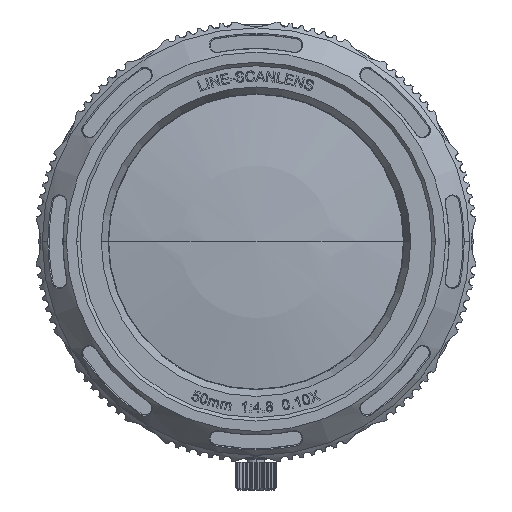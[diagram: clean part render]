
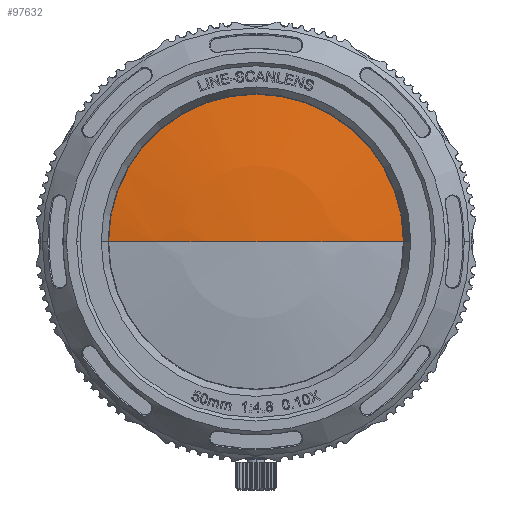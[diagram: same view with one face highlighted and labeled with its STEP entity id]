
A CAD part, left-side view. The second image highlights one B-rep face of the part: STEP entity #97632.
In plain terms, the highlighted spherical face has radius 124.25 mm.
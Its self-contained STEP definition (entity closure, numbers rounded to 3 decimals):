
#42138=CARTESIAN_POINT('',(-37.942,0.,0.));
#42139=DIRECTION('',(1.,0.,0.));
#42140=DIRECTION('',(0.,1.,0.));
#42141=AXIS2_PLACEMENT_3D('',#42138,#42139,#42140);
#42143=CARTESIAN_POINT('',(84.345,0.,0.));
#42144=DIRECTION('',(0.,0.,-1.));
#42145=DIRECTION('',(-0.984,-0.177,0.));
#42146=AXIS2_PLACEMENT_3D('',#42143,#42144,#42145);
#42148=CARTESIAN_POINT('',(84.345,0.,0.));
#42149=DIRECTION('',(0.,0.,1.));
#42150=DIRECTION('',(-0.984,0.177,0.));
#42151=AXIS2_PLACEMENT_3D('',#42148,#42149,#42150);
#51231=CARTESIAN_POINT('',(-37.942,22.,0.));
#51232=VERTEX_POINT('',#51231);
#51233=CARTESIAN_POINT('',(-37.942,-22.,0.));
#51234=VERTEX_POINT('',#51233);
#51235=CARTESIAN_POINT('',(-39.905,0.,0.));
#51236=VERTEX_POINT('',#51235);
#97620=CARTESIAN_POINT('',(84.345,0.,0.));
#97621=DIRECTION('',(1.,0.,0.));
#97622=DIRECTION('',(0.,-1.,0.));
#97623=AXIS2_PLACEMENT_3D('',#97620,#97621,#97622);
#97624=SPHERICAL_SURFACE('',#97623,124.25);
#97626=ORIENTED_EDGE('',*,*,#97625,.F.);
#97627=ORIENTED_EDGE('',*,*,#97614,.T.);
#97629=ORIENTED_EDGE('',*,*,#97628,.T.);
#97630=EDGE_LOOP('',(#97626,#97627,#97629));
#97631=FACE_OUTER_BOUND('',#97630,.F.);
#42142=CIRCLE('',#42141,22.);
#42147=CIRCLE('',#42146,124.25);
#42152=CIRCLE('',#42151,124.25);
#97614=EDGE_CURVE('',#51232,#51234,#42142,.T.);
#97625=EDGE_CURVE('',#51232,#51236,#42152,.T.);
#97628=EDGE_CURVE('',#51234,#51236,#42147,.T.);
#97632=ADVANCED_FACE('',(#97631),#97624,.T.);
